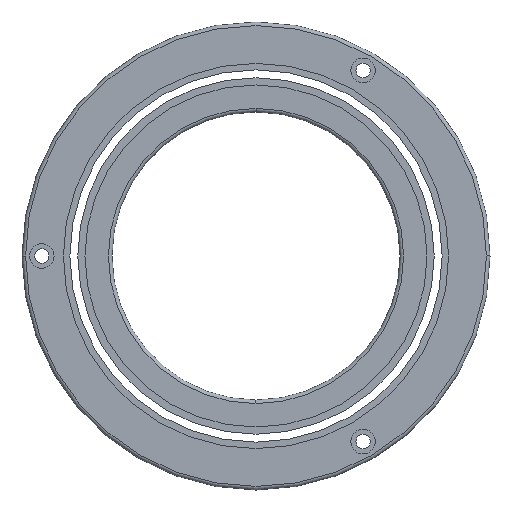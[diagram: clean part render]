
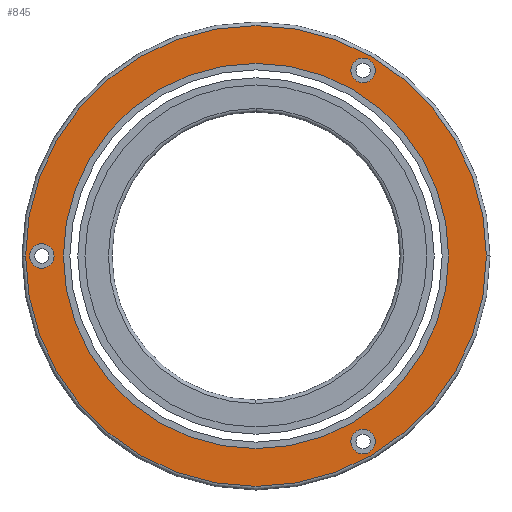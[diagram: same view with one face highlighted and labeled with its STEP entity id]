
A CAD part, front view. The second image highlights one B-rep face of the part: STEP entity #845.
In plain terms, the highlighted planar face has unit normal (0, -1, 0).
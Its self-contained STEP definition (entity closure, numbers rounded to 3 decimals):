
#64=CARTESIAN_POINT('',(0.,0.,0.));
#65=DIRECTION('',(0.,-1.,0.));
#66=DIRECTION('',(-1.,0.,0.));
#67=AXIS2_PLACEMENT_3D('',#64,#65,#66);
#69=CARTESIAN_POINT('',(0.,0.,0.));
#70=DIRECTION('',(0.,1.,0.));
#71=DIRECTION('',(-1.,0.,0.));
#72=AXIS2_PLACEMENT_3D('',#69,#70,#71);
#74=CARTESIAN_POINT('',(-29.75,0.,0.));
#75=DIRECTION('',(0.,1.,0.));
#76=DIRECTION('',(1.,0.,0.));
#77=AXIS2_PLACEMENT_3D('',#74,#75,#76);
#79=CARTESIAN_POINT('',(-29.75,0.,0.));
#80=DIRECTION('',(0.,1.,0.));
#81=DIRECTION('',(-1.,0.,0.));
#82=AXIS2_PLACEMENT_3D('',#79,#80,#81);
#84=CARTESIAN_POINT('',(14.875,0.,25.764));
#85=DIRECTION('',(0.,1.,0.));
#86=DIRECTION('',(-0.5,0.,-0.866));
#87=AXIS2_PLACEMENT_3D('',#84,#85,#86);
#89=CARTESIAN_POINT('',(14.875,0.,25.764));
#90=DIRECTION('',(0.,1.,0.));
#91=DIRECTION('',(0.5,0.,0.866));
#92=AXIS2_PLACEMENT_3D('',#89,#90,#91);
#94=CARTESIAN_POINT('',(14.875,0.,-25.764));
#95=DIRECTION('',(0.,1.,0.));
#96=DIRECTION('',(-0.5,0.,0.866));
#97=AXIS2_PLACEMENT_3D('',#94,#95,#96);
#99=CARTESIAN_POINT('',(14.875,0.,-25.764));
#100=DIRECTION('',(0.,1.,0.));
#101=DIRECTION('',(0.5,0.,-0.866));
#102=AXIS2_PLACEMENT_3D('',#99,#100,#101);
#104=CARTESIAN_POINT('',(0.,0.,0.));
#105=DIRECTION('',(0.,1.,0.));
#106=DIRECTION('',(-1.,0.,0.));
#107=AXIS2_PLACEMENT_3D('',#104,#105,#106);
#109=CARTESIAN_POINT('',(0.,0.,0.));
#110=DIRECTION('',(0.,1.,0.));
#111=DIRECTION('',(1.,0.,0.));
#112=AXIS2_PLACEMENT_3D('',#109,#110,#111);
#670=CARTESIAN_POINT('',(-28.05,0.,0.));
#671=VERTEX_POINT('',#670);
#672=CARTESIAN_POINT('',(-31.45,0.,0.));
#673=VERTEX_POINT('',#672);
#682=CARTESIAN_POINT('',(14.025,0.,24.292));
#683=VERTEX_POINT('',#682);
#684=CARTESIAN_POINT('',(15.725,0.,27.236));
#685=VERTEX_POINT('',#684);
#694=CARTESIAN_POINT('',(14.025,0.,-24.292));
#695=VERTEX_POINT('',#694);
#696=CARTESIAN_POINT('',(15.725,0.,-27.236));
#697=VERTEX_POINT('',#696);
#715=CARTESIAN_POINT('',(-26.75,0.,0.));
#717=VERTEX_POINT('',#715);
#719=CARTESIAN_POINT('',(26.75,0.,0.));
#721=VERTEX_POINT('',#719);
#734=CARTESIAN_POINT('',(-32.,0.,0.));
#735=CARTESIAN_POINT('',(32.,0.,0.));
#736=VERTEX_POINT('',#734);
#737=VERTEX_POINT('',#735);
#812=CARTESIAN_POINT('',(0.,0.,0.));
#813=DIRECTION('',(0.,1.,0.));
#814=DIRECTION('',(1.,0.,0.));
#815=AXIS2_PLACEMENT_3D('',#812,#813,#814);
#816=PLANE('',#815);
#818=ORIENTED_EDGE('',*,*,#817,.T.);
#820=ORIENTED_EDGE('',*,*,#819,.T.);
#821=EDGE_LOOP('',(#818,#820));
#822=FACE_OUTER_BOUND('',#821,.F.);
#824=ORIENTED_EDGE('',*,*,#823,.F.);
#826=ORIENTED_EDGE('',*,*,#825,.F.);
#827=EDGE_LOOP('',(#824,#826));
#828=FACE_BOUND('',#827,.F.);
#830=ORIENTED_EDGE('',*,*,#829,.F.);
#832=ORIENTED_EDGE('',*,*,#831,.F.);
#833=EDGE_LOOP('',(#830,#832));
#834=FACE_BOUND('',#833,.F.);
#836=ORIENTED_EDGE('',*,*,#835,.F.);
#838=ORIENTED_EDGE('',*,*,#837,.F.);
#839=EDGE_LOOP('',(#836,#838));
#840=FACE_BOUND('',#839,.F.);
#841=ORIENTED_EDGE('',*,*,#807,.T.);
#842=ORIENTED_EDGE('',*,*,#791,.F.);
#843=EDGE_LOOP('',(#841,#842));
#844=FACE_BOUND('',#843,.F.);
#68=CIRCLE('',#67,26.75);
#73=CIRCLE('',#72,26.75);
#78=CIRCLE('',#77,1.7);
#83=CIRCLE('',#82,1.7);
#88=CIRCLE('',#87,1.7);
#93=CIRCLE('',#92,1.7);
#98=CIRCLE('',#97,1.7);
#103=CIRCLE('',#102,1.7);
#108=CIRCLE('',#107,32.);
#113=CIRCLE('',#112,32.);
#791=EDGE_CURVE('',#717,#721,#73,.T.);
#807=EDGE_CURVE('',#717,#721,#68,.T.);
#817=EDGE_CURVE('',#736,#737,#108,.T.);
#819=EDGE_CURVE('',#737,#736,#113,.T.);
#823=EDGE_CURVE('',#671,#673,#78,.T.);
#825=EDGE_CURVE('',#673,#671,#83,.T.);
#829=EDGE_CURVE('',#683,#685,#88,.T.);
#831=EDGE_CURVE('',#685,#683,#93,.T.);
#835=EDGE_CURVE('',#695,#697,#98,.T.);
#837=EDGE_CURVE('',#697,#695,#103,.T.);
#845=ADVANCED_FACE('',(#822,#828,#834,#840,#844),#816,.F.);
